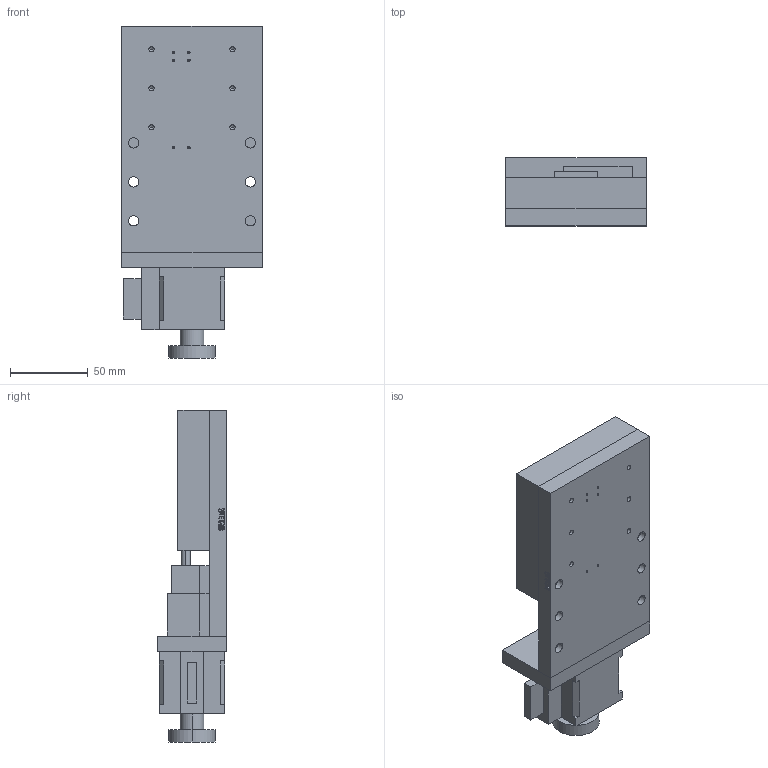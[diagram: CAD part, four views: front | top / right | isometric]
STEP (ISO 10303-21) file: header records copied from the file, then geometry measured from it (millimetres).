
FILE_DESCRIPTION (( 'STEP AP203' ), '1' );
FILE_NAME ('PP110-30.STEP', '2022-08-21T08:42:18', ( '' ), ( '' ), 'SwSTEP 2.0', 'SolidWorks 2020', '' );
FILE_SCHEMA (( 'CONFIG_CONTROL_DESIGN' ));
Length unit declared in the file: millimetre
Products named in the file (7): 錨璃8^PP110-30; 錨璃4^PP110-30; 錨璃6^PP110-30; 錨璃5^PP110-30; 錨璃9^PP110-30; 錨璃7^PP110-30; PP110-30
Assembly tree (6 placements, depth 2):
  PP110-30
    錨璃4^PP110-30
    錨璃5^PP110-30
    錨璃6^PP110-30
    錨璃7^PP110-30
    錨璃8^PP110-30
    錨璃9^PP110-30
Bounding box: 90 x 44 x 213 mm (x, y, z)
Volume: 468771.4 mm3; surface area: 99416.2 mm2
Topology: 6 solids, 6 shells, 435 faces, 1117 edges, 689 vertices
Faces by surface type: plane 181, cylinder 104, bspline 76, cone 74
Entity records: 16554 total; most frequent: CARTESIAN_POINT 5880, ORIENTED_EDGE 2110, DIRECTION 1859, EDGE_CURVE 1055, VERTEX_POINT 689, LINE 683, VECTOR 683, AXIS2_PLACEMENT_3D 588
